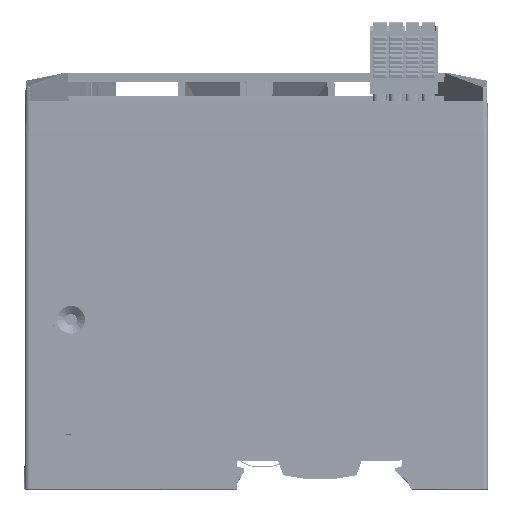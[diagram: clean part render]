
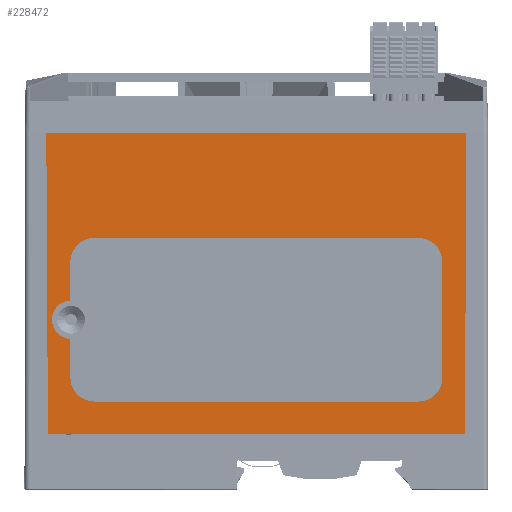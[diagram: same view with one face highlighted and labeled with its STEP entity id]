
A CAD part, left-side view. The second image highlights one B-rep face of the part: STEP entity #228472.
In plain terms, the highlighted planar face has unit normal (-1, 0, 0).
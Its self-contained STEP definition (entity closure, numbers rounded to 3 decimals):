
#189301=DIRECTION('',(0.,0.,-1.));
#189302=VECTOR('',#189301,25.);
#189303=CARTESIAN_POINT('',(-40.,-40.15,49.25));
#189304=LINE('',#189303,#189302);
#189578=DIRECTION('',(0.,0.,1.));
#189579=VECTOR('',#189578,8.353);
#189580=CARTESIAN_POINT('',(-40.,40.15,24.25));
#189581=LINE('',#189580,#189579);
#189582=DIRECTION('',(0.,0.005,-1.));
#189583=VECTOR('',#189582,65.001);
#189584=CARTESIAN_POINT('',(-40.,-45.341,77.));
#189585=LINE('',#189584,#189583);
#189586=DIRECTION('',(0.,1.,0.));
#189587=VECTOR('',#189586,90.002);
#189588=CARTESIAN_POINT('',(-40.,-45.001,12.));
#189589=LINE('',#189588,#189587);
#189590=DIRECTION('',(0.,0.005,1.));
#189591=VECTOR('',#189590,65.001);
#189592=CARTESIAN_POINT('',(-40.,45.001,12.));
#189593=LINE('',#189592,#189591);
#189594=CARTESIAN_POINT('',(-40.,40.,36.75));
#189595=DIRECTION('',(-1.,0.,0.));
#189596=DIRECTION('',(0.,0.036,0.999));
#189597=AXIS2_PLACEMENT_3D('',#189594,#189595,#189596);
#189599=CARTESIAN_POINT('',(-40.,40.,36.75));
#189600=DIRECTION('',(-1.,0.,0.));
#189601=DIRECTION('',(0.,1.,0.));
#189602=AXIS2_PLACEMENT_3D('',#189599,#189600,#189601);
#189604=CARTESIAN_POINT('',(-40.,35.,24.25));
#189605=DIRECTION('',(-1.,0.,0.));
#189606=DIRECTION('',(0.,1.,0.));
#189607=AXIS2_PLACEMENT_3D('',#189604,#189605,#189606);
#189609=CARTESIAN_POINT('',(-40.,-35.,24.25));
#189610=DIRECTION('',(-1.,0.,0.));
#189611=DIRECTION('',(0.,0.,-1.));
#189612=AXIS2_PLACEMENT_3D('',#189609,#189610,#189611);
#189614=CARTESIAN_POINT('',(-40.,-35.,49.25));
#189615=DIRECTION('',(-1.,0.,0.));
#189616=DIRECTION('',(0.,-1.,0.));
#189617=AXIS2_PLACEMENT_3D('',#189614,#189615,#189616);
#189619=CARTESIAN_POINT('',(-40.,35.,49.25));
#189620=DIRECTION('',(-1.,0.,0.));
#189621=DIRECTION('',(0.,0.,1.));
#189622=AXIS2_PLACEMENT_3D('',#189619,#189620,#189621);
#189628=DIRECTION('',(0.,1.,0.));
#189629=VECTOR('',#189628,9.);
#189630=CARTESIAN_POINT('',(-40.,-4.5,77.));
#189631=LINE('',#189630,#189629);
#190123=DIRECTION('',(0.,1.,0.));
#190124=VECTOR('',#190123,40.841);
#190125=CARTESIAN_POINT('',(-40.,4.5,77.));
#190126=LINE('',#190125,#190124);
#190155=DIRECTION('',(0.,1.,0.));
#190156=VECTOR('',#190155,40.841);
#190157=CARTESIAN_POINT('',(-40.,-45.341,77.));
#190158=LINE('',#190157,#190156);
#215268=DIRECTION('',(0.,0.,1.));
#215269=VECTOR('',#215268,8.353);
#215270=CARTESIAN_POINT('',(-40.,40.15,40.897));
#215271=LINE('',#215270,#215269);
#215280=DIRECTION('',(0.,-1.,0.));
#215281=VECTOR('',#215280,70.);
#215282=CARTESIAN_POINT('',(-40.,35.,54.4));
#215283=LINE('',#215282,#215281);
#215542=DIRECTION('',(0.,1.,0.));
#215543=VECTOR('',#215542,70.);
#215544=CARTESIAN_POINT('',(-40.,-35.,19.1));
#215545=LINE('',#215544,#215543);
#217380=CARTESIAN_POINT('',(-40.,4.5,77.));
#217382=VERTEX_POINT('',#217380);
#217388=CARTESIAN_POINT('',(-40.,-4.5,77.));
#217389=VERTEX_POINT('',#217388);
#217458=CARTESIAN_POINT('',(-40.,45.341,77.));
#217459=VERTEX_POINT('',#217458);
#217466=CARTESIAN_POINT('',(-40.,-45.341,77.));
#217467=VERTEX_POINT('',#217466);
#219796=CARTESIAN_POINT('',(-40.,-45.001,12.));
#219797=VERTEX_POINT('',#219796);
#219798=CARTESIAN_POINT('',(-40.,45.001,12.));
#219799=VERTEX_POINT('',#219798);
#219800=CARTESIAN_POINT('',(-40.,40.15,40.897));
#219801=CARTESIAN_POINT('',(-40.,40.15,49.25));
#219802=VERTEX_POINT('',#219800);
#219803=VERTEX_POINT('',#219801);
#219804=CARTESIAN_POINT('',(-40.,44.15,36.75));
#219805=VERTEX_POINT('',#219804);
#219806=CARTESIAN_POINT('',(-40.,40.15,32.603));
#219807=VERTEX_POINT('',#219806);
#219808=CARTESIAN_POINT('',(-40.,40.15,24.25));
#219809=VERTEX_POINT('',#219808);
#219810=CARTESIAN_POINT('',(-40.,35.,19.1));
#219811=VERTEX_POINT('',#219810);
#219812=CARTESIAN_POINT('',(-40.,-35.,19.1));
#219813=VERTEX_POINT('',#219812);
#219814=CARTESIAN_POINT('',(-40.,-40.15,24.25));
#219815=VERTEX_POINT('',#219814);
#219816=CARTESIAN_POINT('',(-40.,-40.15,49.25));
#219817=VERTEX_POINT('',#219816);
#219818=CARTESIAN_POINT('',(-40.,-35.,54.4));
#219819=VERTEX_POINT('',#219818);
#219820=CARTESIAN_POINT('',(-40.,35.,54.4));
#219821=VERTEX_POINT('',#219820);
#228431=CARTESIAN_POINT('',(-40.,50.,0.));
#228432=DIRECTION('',(-1.,0.,0.));
#228433=DIRECTION('',(0.,-1.,0.));
#228434=AXIS2_PLACEMENT_3D('',#228431,#228432,#228433);
#228435=PLANE('',#228434);
#228437=ORIENTED_EDGE('',*,*,#228436,.F.);
#228439=ORIENTED_EDGE('',*,*,#228438,.F.);
#228441=ORIENTED_EDGE('',*,*,#228440,.T.);
#228443=ORIENTED_EDGE('',*,*,#228442,.T.);
#228445=ORIENTED_EDGE('',*,*,#228444,.T.);
#228447=ORIENTED_EDGE('',*,*,#228446,.F.);
#228448=EDGE_LOOP('',(#228437,#228439,#228441,#228443,#228445,#228447));
#228449=FACE_OUTER_BOUND('',#228448,.F.);
#228451=ORIENTED_EDGE('',*,*,#228450,.F.);
#228453=ORIENTED_EDGE('',*,*,#228452,.T.);
#228455=ORIENTED_EDGE('',*,*,#228454,.T.);
#228456=ORIENTED_EDGE('',*,*,#228421,.F.);
#228458=ORIENTED_EDGE('',*,*,#228457,.T.);
#228460=ORIENTED_EDGE('',*,*,#228459,.F.);
#228462=ORIENTED_EDGE('',*,*,#228461,.T.);
#228463=ORIENTED_EDGE('',*,*,#228150,.F.);
#228465=ORIENTED_EDGE('',*,*,#228464,.T.);
#228467=ORIENTED_EDGE('',*,*,#228466,.F.);
#228469=ORIENTED_EDGE('',*,*,#228468,.T.);
#228470=EDGE_LOOP('',(#228451,#228453,#228455,#228456,#228458,#228460,#228462,
#228463,#228465,#228467,#228469));
#228471=FACE_BOUND('',#228470,.F.);
#228472=ADVANCED_FACE('',(#228449,#228471),#228435,.T.);
#189598=CIRCLE('',#189597,4.15);
#189603=CIRCLE('',#189602,4.15);
#189608=CIRCLE('',#189607,5.15);
#189613=CIRCLE('',#189612,5.15);
#189618=CIRCLE('',#189617,5.15);
#189623=CIRCLE('',#189622,5.15);
#228150=EDGE_CURVE('',#219817,#219815,#189304,.T.);
#228421=EDGE_CURVE('',#219809,#219807,#189581,.T.);
#228436=EDGE_CURVE('',#217389,#217382,#189631,.T.);
#228438=EDGE_CURVE('',#217467,#217389,#190158,.T.);
#228440=EDGE_CURVE('',#217467,#219797,#189585,.T.);
#228442=EDGE_CURVE('',#219797,#219799,#189589,.T.);
#228444=EDGE_CURVE('',#219799,#217459,#189593,.T.);
#228446=EDGE_CURVE('',#217382,#217459,#190126,.T.);
#228450=EDGE_CURVE('',#219802,#219803,#215271,.T.);
#228452=EDGE_CURVE('',#219802,#219805,#189598,.T.);
#228454=EDGE_CURVE('',#219805,#219807,#189603,.T.);
#228457=EDGE_CURVE('',#219809,#219811,#189608,.T.);
#228459=EDGE_CURVE('',#219813,#219811,#215545,.T.);
#228461=EDGE_CURVE('',#219813,#219815,#189613,.T.);
#228464=EDGE_CURVE('',#219817,#219819,#189618,.T.);
#228466=EDGE_CURVE('',#219821,#219819,#215283,.T.);
#228468=EDGE_CURVE('',#219821,#219803,#189623,.T.);
